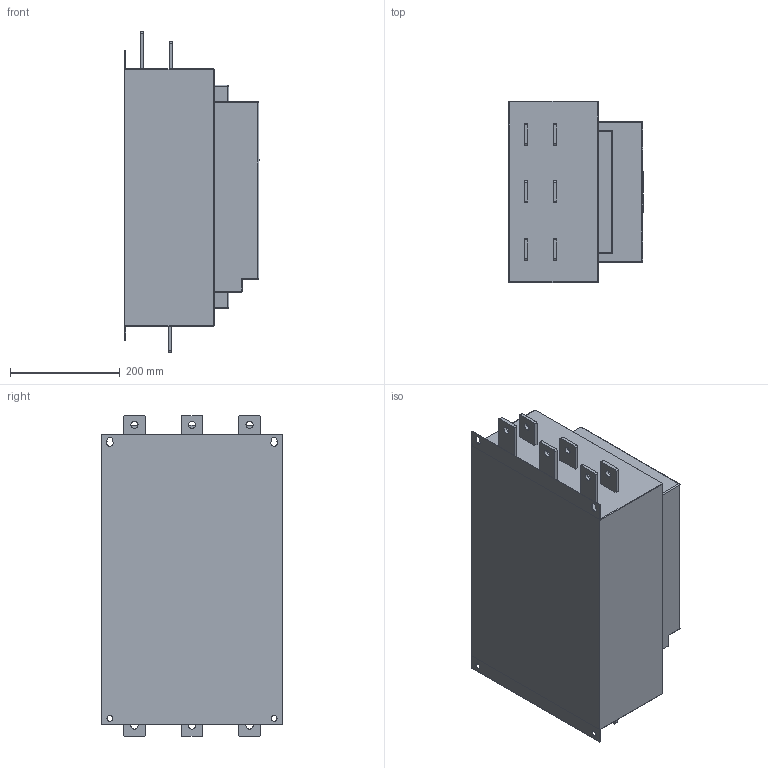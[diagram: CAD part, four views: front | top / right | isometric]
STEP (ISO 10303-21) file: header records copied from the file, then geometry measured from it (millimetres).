
FILE_DESCRIPTION(('STEP AP203'), '1');
FILE_NAME('ﾓﾏﾏ _ SSI-355_710-04', '', ('UNSPECIFIED'), ('UNSPECIFIED'), 'C3D Converter', 'C3D Toolkit', '');
FILE_SCHEMA(('CONFIG_CONTROL_DESIGN'));
Length unit declared in the file: millimetre
Products named in the file (4): SSI-400_800-04; SSI-KP
Assembly tree (3 placements, depth 2):
  SSI-400_800-04
    SSI-400_800-04
    SSI-400_800-04
    SSI-KP
Bounding box: 245.62 x 330 x 586 mm (x, y, z)
Volume: 32813366 mm3; surface area: 1019230.6 mm2
Topology: 3 solids, 3 shells, 493 faces, 1299 edges, 836 vertices
Faces by surface type: plane 372, cylinder 106, sphere 14, torus 1
Full cylindrical faces by diameter (mm): 4.8 x12, 10 x2, 10.5 x2, 12 x6, 13 x9
Entity records: 16106 total; most frequent: CARTESIAN_POINT 2591, DIRECTION 2530, ORIENTED_EDGE 2504, EDGE_CURVE 1252, LINE 964, VECTOR 964, VERTEX_POINT 836, AXIS2_PLACEMENT_3D 783
